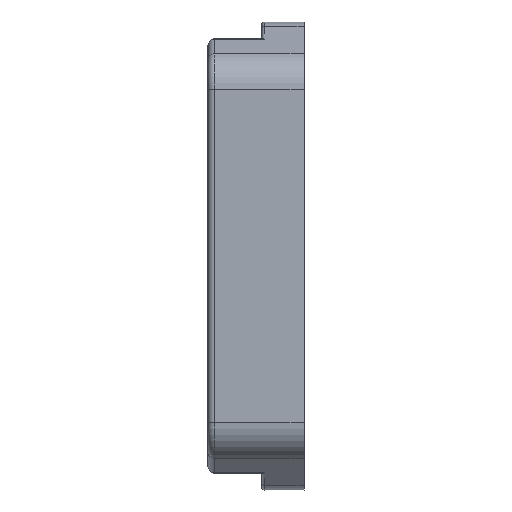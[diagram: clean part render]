
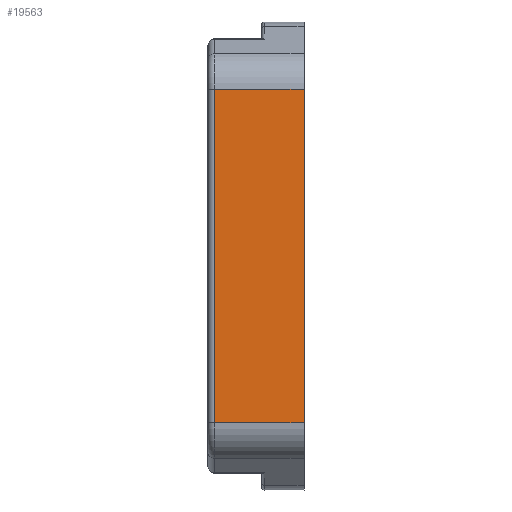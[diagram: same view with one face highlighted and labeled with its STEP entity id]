
A CAD part, left-side view. The second image highlights one B-rep face of the part: STEP entity #19563.
In plain terms, the highlighted planar face has unit normal (-1, 0, 0).
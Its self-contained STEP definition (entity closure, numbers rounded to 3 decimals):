
#782 = DIRECTION ( 'NONE',  ( 0., 0., -1. ) ) ;
#843 = CARTESIAN_POINT ( 'NONE',  ( -9., 3.5, -12.983 ) ) ;
#1029 = FACE_OUTER_BOUND ( 'NONE', #46254, .T. ) ;
#1344 = CARTESIAN_POINT ( 'NONE',  ( -9., -3.5, -12.983 ) ) ;
#7589 = EDGE_CURVE ( 'NONE', #13269, #86170, #88922, .T. ) ;
#12066 = DIRECTION ( 'NONE',  ( 0., 1., 0. ) ) ;
#12491 = EDGE_CURVE ( 'NONE', #53097, #86170, #15370, .T. ) ;
#13269 = VERTEX_POINT ( 'NONE', #843 ) ;
#15203 = VECTOR ( 'NONE', #53465, 1000. ) ;
#15370 = LINE ( 'NONE', #67618, #15203 ) ;
#16427 = VECTOR ( 'NONE', #42372, 1000. ) ;
#18537 = LINE ( 'NONE', #92529, #16427 ) ;
#19563 = ADVANCED_FACE ( 'NONE', ( #1029 ), #79939, .F. ) ;
#25154 = VECTOR ( 'NONE', #42836, 1000. ) ;
#31068 = LINE ( 'NONE', #84381, #31287 ) ;
#31287 = VECTOR ( 'NONE', #12066, 1000. ) ;
#32342 = ORIENTED_EDGE ( 'NONE', *, *, #7589, .T. ) ;
#36888 = CARTESIAN_POINT ( 'NONE',  ( -9., -3.5, 9. ) ) ;
#42372 = DIRECTION ( 'NONE',  ( 0., 0., -1. ) ) ;
#42836 = DIRECTION ( 'NONE',  ( 0., -1., 0. ) ) ;
#44218 = DIRECTION ( 'NONE',  ( 1., 0., 0. ) ) ;
#46254 = EDGE_LOOP ( 'NONE', ( #78808, #50173, #32342, #61168 ) ) ;
#49096 = AXIS2_PLACEMENT_3D ( 'NONE', #36888, #44218, #782 ) ;
#50173 = ORIENTED_EDGE ( 'NONE', *, *, #50208, .T. ) ;
#50208 = EDGE_CURVE ( 'NONE', #62188, #13269, #18537, .T. ) ;
#53097 = VERTEX_POINT ( 'NONE', #88662 ) ;
#53465 = DIRECTION ( 'NONE',  ( 0., 0., -1. ) ) ;
#55110 = CARTESIAN_POINT ( 'NONE',  ( -9., 3.5, 12.983 ) ) ;
#61168 = ORIENTED_EDGE ( 'NONE', *, *, #12491, .F. ) ;
#62188 = VERTEX_POINT ( 'NONE', #55110 ) ;
#67618 = CARTESIAN_POINT ( 'NONE',  ( -9., -3.5, 9. ) ) ;
#71184 = EDGE_CURVE ( 'NONE', #53097, #62188, #31068, .T. ) ;
#78808 = ORIENTED_EDGE ( 'NONE', *, *, #71184, .T. ) ;
#79939 = PLANE ( 'NONE',  #49096 ) ;
#82027 = CARTESIAN_POINT ( 'NONE',  ( -9., -3.5, -12.983 ) ) ;
#84381 = CARTESIAN_POINT ( 'NONE',  ( -9., 4., 12.983 ) ) ;
#86170 = VERTEX_POINT ( 'NONE', #82027 ) ;
#88662 = CARTESIAN_POINT ( 'NONE',  ( -9., -3.5, 12.983 ) ) ;
#88922 = LINE ( 'NONE', #1344, #25154 ) ;
#92529 = CARTESIAN_POINT ( 'NONE',  ( -9., 3.5, 9. ) ) ;
